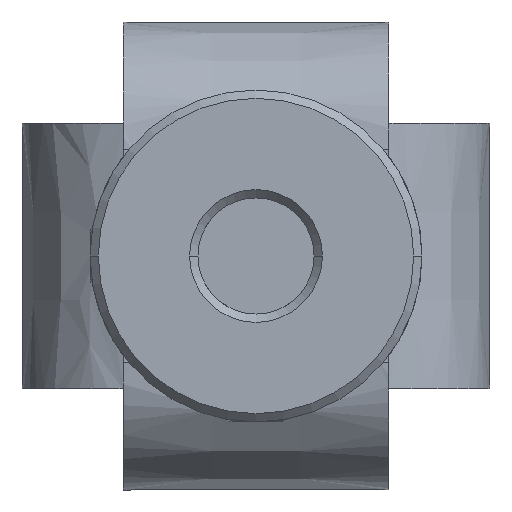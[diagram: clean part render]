
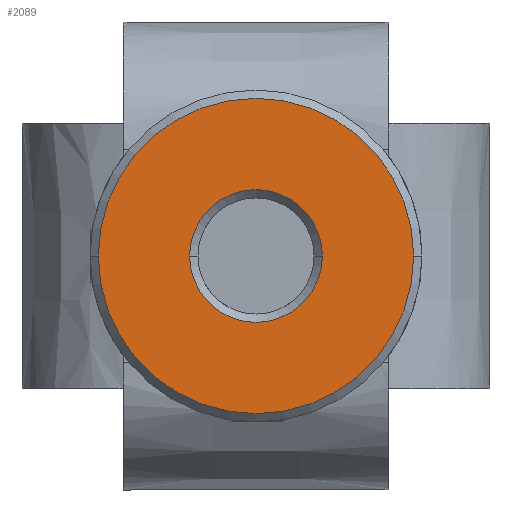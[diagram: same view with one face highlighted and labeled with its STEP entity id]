
A CAD part, front view. The second image highlights one B-rep face of the part: STEP entity #2089.
In plain terms, the highlighted planar face has unit normal (0, -1, 0).
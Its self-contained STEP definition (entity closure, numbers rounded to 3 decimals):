
#6 = DIRECTION ( 'NONE',  ( -1., 0., 0. ) ) ;
#509 = CARTESIAN_POINT ( 'NONE',  ( 0., -35.24, 0. ) ) ;
#624 = CARTESIAN_POINT ( 'NONE',  ( 4., -35.24, 0. ) ) ;
#689 = EDGE_CURVE ( 'NONE', #7367, #2644, #4463, .T. ) ;
#861 = EDGE_CURVE ( 'NONE', #1054, #3798, #7943, .T. ) ;
#1054 = VERTEX_POINT ( 'NONE', #624 ) ;
#1067 = EDGE_LOOP ( 'NONE', ( #1640, #1373 ) ) ;
#1259 = FACE_BOUND ( 'NONE', #2327, .T. ) ;
#1373 = ORIENTED_EDGE ( 'NONE', *, *, #689, .T. ) ;
#1426 = CARTESIAN_POINT ( 'NONE',  ( 0., -35.24, 0. ) ) ;
#1460 = AXIS2_PLACEMENT_3D ( 'NONE', #5921, #6551, #4710 ) ;
#1507 = DIRECTION ( 'NONE',  ( -1., 0., 0. ) ) ;
#1640 = ORIENTED_EDGE ( 'NONE', *, *, #5289, .T. ) ;
#1791 = ORIENTED_EDGE ( 'NONE', *, *, #7632, .T. ) ;
#1824 = AXIS2_PLACEMENT_3D ( 'NONE', #7934, #6075, #3003 ) ;
#1868 = PLANE ( 'NONE',  #1824 ) ;
#2089 = ADVANCED_FACE ( 'NONE', ( #1259, #4659 ), #1868, .T. ) ;
#2162 = DIRECTION ( 'NONE',  ( 0., 1., 0. ) ) ;
#2327 = EDGE_LOOP ( 'NONE', ( #1791, #5224 ) ) ;
#2644 = VERTEX_POINT ( 'NONE', #5674 ) ;
#3003 = DIRECTION ( 'NONE',  ( -1., 0., 0. ) ) ;
#3089 = DIRECTION ( 'NONE',  ( 0., -1., 0. ) ) ;
#3344 = AXIS2_PLACEMENT_3D ( 'NONE', #509, #3563, #6681 ) ;
#3563 = DIRECTION ( 'NONE',  ( 0., 1., 0. ) ) ;
#3798 = VERTEX_POINT ( 'NONE', #6376 ) ;
#3937 = CARTESIAN_POINT ( 'NONE',  ( -9.5, -35.24, 0. ) ) ;
#4463 = CIRCLE ( 'NONE', #1460, 9.5 ) ;
#4659 = FACE_OUTER_BOUND ( 'NONE', #1067, .T. ) ;
#4710 = DIRECTION ( 'NONE',  ( -1., 0., 0. ) ) ;
#5224 = ORIENTED_EDGE ( 'NONE', *, *, #861, .T. ) ;
#5289 = EDGE_CURVE ( 'NONE', #2644, #7367, #7451, .T. ) ;
#5674 = CARTESIAN_POINT ( 'NONE',  ( 9.5, -35.24, 0. ) ) ;
#5921 = CARTESIAN_POINT ( 'NONE',  ( 0., -35.24, 0. ) ) ;
#6027 = AXIS2_PLACEMENT_3D ( 'NONE', #1426, #2162, #1507 ) ;
#6075 = DIRECTION ( 'NONE',  ( 0., -1., 0. ) ) ;
#6257 = AXIS2_PLACEMENT_3D ( 'NONE', #6265, #3089, #6 ) ;
#6265 = CARTESIAN_POINT ( 'NONE',  ( 0., -35.24, 0. ) ) ;
#6376 = CARTESIAN_POINT ( 'NONE',  ( -4., -35.24, 0. ) ) ;
#6551 = DIRECTION ( 'NONE',  ( 0., -1., 0. ) ) ;
#6681 = DIRECTION ( 'NONE',  ( -1., 0., 0. ) ) ;
#7249 = CIRCLE ( 'NONE', #3344, 4. ) ;
#7367 = VERTEX_POINT ( 'NONE', #3937 ) ;
#7451 = CIRCLE ( 'NONE', #6257, 9.5 ) ;
#7632 = EDGE_CURVE ( 'NONE', #3798, #1054, #7249, .T. ) ;
#7934 = CARTESIAN_POINT ( 'NONE',  ( 0., -35.24, 0. ) ) ;
#7943 = CIRCLE ( 'NONE', #6027, 4. ) ;
